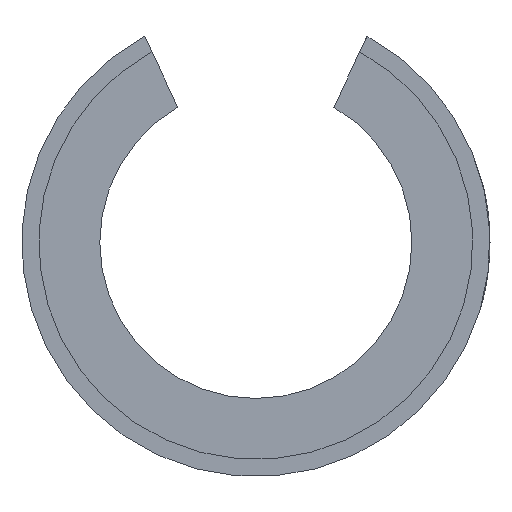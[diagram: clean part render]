
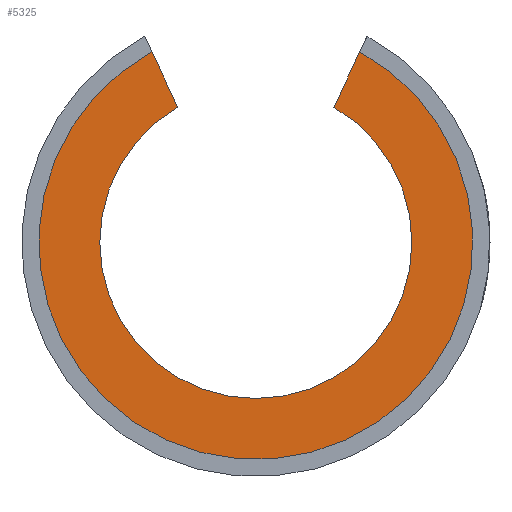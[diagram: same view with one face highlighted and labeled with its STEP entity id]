
A CAD part, left-side view. The second image highlights one B-rep face of the part: STEP entity #5325.
In plain terms, the highlighted planar face has unit normal (-1, 0, 0).
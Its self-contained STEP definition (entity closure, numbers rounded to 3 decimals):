
#126=PLANE('',#5741);
#352=CIRCLE('',#5716,15.);
#365=CIRCLE('',#5742,20.858);
#550=LINE('',#8424,#1000);
#551=LINE('',#8426,#1001);
#1000=VECTOR('',#6329,1000.);
#1001=VECTOR('',#6330,1000.);
#1630=ORIENTED_EDGE('',*,*,#3229,.T.);
#1631=ORIENTED_EDGE('',*,*,#3190,.T.);
#1632=ORIENTED_EDGE('',*,*,#3230,.T.);
#1633=ORIENTED_EDGE('',*,*,#3231,.F.);
#3190=EDGE_CURVE('',#3996,#3997,#352,.F.);
#3229=EDGE_CURVE('',#4022,#3996,#550,.T.);
#3230=EDGE_CURVE('',#3997,#4023,#551,.T.);
#3231=EDGE_CURVE('',#4022,#4023,#365,.T.);
#3996=VERTEX_POINT('',#8347);
#3997=VERTEX_POINT('',#8348);
#4022=VERTEX_POINT('',#8425);
#4023=VERTEX_POINT('',#8427);
#4552=EDGE_LOOP('',(#1630,#1631,#1632,#1633));
#4929=FACE_BOUND('',#4552,.T.);
#5325=ADVANCED_FACE('',(#4929),#126,.T.);
#5716=AXIS2_PLACEMENT_3D('',#8346,#6251,#6252);
#5741=AXIS2_PLACEMENT_3D('',#8423,#6327,#6328);
#5742=AXIS2_PLACEMENT_3D('',#8428,#6331,#6332);
#6251=DIRECTION('',(-1.,0.,0.));
#6252=DIRECTION('',(0.,0.,1.));
#6327=DIRECTION('',(-1.,0.,0.));
#6328=DIRECTION('',(0.,0.,-1.));
#6329=DIRECTION('',(0.,0.423,-0.906));
#6330=DIRECTION('',(0.,0.423,0.906));
#6331=DIRECTION('',(1.,0.,0.));
#6332=DIRECTION('',(0.,0.,-1.));
#8346=CARTESIAN_POINT('',(-30.2,0.,0.));
#8347=CARTESIAN_POINT('',(-30.2,-7.5,12.99));
#8348=CARTESIAN_POINT('',(-30.2,7.5,12.99));
#8423=CARTESIAN_POINT('',(-30.2,0.,0.));
#8424=CARTESIAN_POINT('',(-30.2,-7.5,12.99));
#8425=CARTESIAN_POINT('',(-30.2,-9.982,18.314));
#8426=CARTESIAN_POINT('',(-30.2,7.5,12.99));
#8427=CARTESIAN_POINT('',(-30.2,9.982,18.314));
#8428=CARTESIAN_POINT('',(-30.2,0.,0.));
